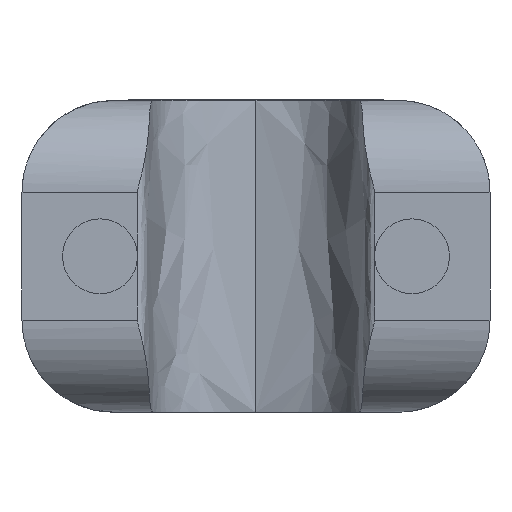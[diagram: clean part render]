
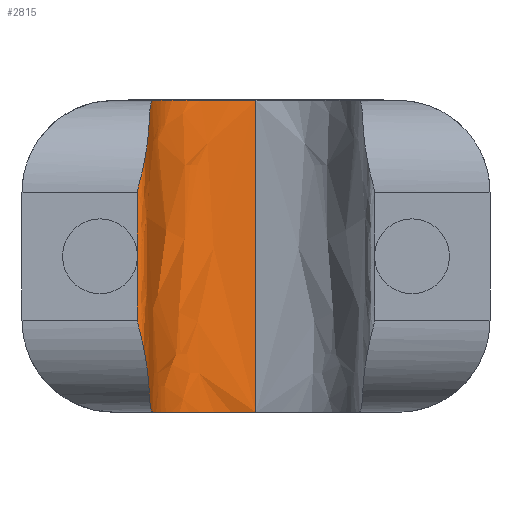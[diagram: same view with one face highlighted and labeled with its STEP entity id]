
A CAD part, front view. The second image highlights one B-rep face of the part: STEP entity #2815.
In plain terms, the highlighted free-form (B-spline) face has degree [3, 1] with [4, 2] control points.
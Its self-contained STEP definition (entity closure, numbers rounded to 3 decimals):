
#59 = CARTESIAN_POINT ( 'NONE',  ( -2.792, 0.093, 0.376 ) ) ;
#108 = B_SPLINE_CURVE_WITH_KNOTS ( 'NONE', 3,
 ( #3342, #2412, #3371, #1829, #3109, #2813, #3151, #1013, #2875, #1941, #3222, #368, #3173, #687 ),
 .UNSPECIFIED., .F., .F.,
 ( 4, 2, 2, 2, 2, 2, 4 ),
 ( 0., 0., 0.001, 0.001, 0.001, 0.001, 0.001 ),
 .UNSPECIFIED. ) ;
#166 = CARTESIAN_POINT ( 'NONE',  ( -1.905, 1.52, 2.54 ) ) ;
#195 = ORIENTED_EDGE ( 'NONE', *, *, #2181, .F. ) ;
#357 = CARTESIAN_POINT ( 'NONE',  ( -2.77, 0.371, 0.096 ) ) ;
#368 = CARTESIAN_POINT ( 'NONE',  ( -2.862, 0.001, 1.839 ) ) ;
#395 = EDGE_CURVE ( 'NONE', #1058, #1155, #108, .T. ) ;
#461 = VERTEX_POINT ( 'NONE', #2243 ) ;
#587 = CARTESIAN_POINT ( 'NONE',  ( -2.518, 1.505, 0. ) ) ;
#674 = B_SPLINE_CURVE_WITH_KNOTS ( 'NONE', 3,
 ( #1524, #587, #3042, #2773 ),
 .UNSPECIFIED., .F., .F.,
 ( 4, 4 ),
 ( 0., 0.506 ),
 .UNSPECIFIED. ) ;
#687 = CARTESIAN_POINT ( 'NONE',  ( -2.87, 0., 1.79 ) ) ;
#732 = LINE ( 'NONE', #2371, #1767 ) ;
#795 = CARTESIAN_POINT ( 'NONE',  ( -2.87, 0., 1.79 ) ) ;
#847 = EDGE_CURVE ( 'NONE', #997, #461, #3849, .T. ) ;
#881 = DIRECTION ( 'NONE',  ( 0., 0., 1. ) ) ;
#969 = CARTESIAN_POINT ( 'NONE',  ( -2.772, 0.287, 0.152 ) ) ;
#982 = CARTESIAN_POINT ( 'NONE',  ( -2.85, 0.006, 0.653 ) ) ;
#997 = VERTEX_POINT ( 'NONE', #3846 ) ;
#1008 = CARTESIAN_POINT ( 'NONE',  ( -3.116, 1.491, 2.54 ) ) ;
#1013 = CARTESIAN_POINT ( 'NONE',  ( -2.816, 0.037, 2.029 ) ) ;
#1035 = ORIENTED_EDGE ( 'NONE', *, *, #3821, .F. ) ;
#1058 = VERTEX_POINT ( 'NONE', #1400 ) ;
#1147 = DIRECTION ( 'NONE',  ( 0., 0., 1. ) ) ;
#1155 = VERTEX_POINT ( 'NONE', #795 ) ;
#1275 = VECTOR ( 'NONE', #1974, 1000. ) ;
#1316 = CARTESIAN_POINT ( 'NONE',  ( -2.756, 0.651, 0. ) ) ;
#1356 = VERTEX_POINT ( 'NONE', #2466 ) ;
#1400 = CARTESIAN_POINT ( 'NONE',  ( -2.742, 0.75, 2.54 ) ) ;
#1503 = CARTESIAN_POINT ( 'NONE',  ( -2.87, 0., 1.27 ) ) ;
#1524 = CARTESIAN_POINT ( 'NONE',  ( -1.905, 1.52, 0. ) ) ;
#1580 = CARTESIAN_POINT ( 'NONE',  ( -2.87, 0., 0. ) ) ;
#1618 = CARTESIAN_POINT ( 'NONE',  ( -1.905, 1.52, 0. ) ) ;
#1637 = CARTESIAN_POINT ( 'NONE',  ( -3.116, 1.491, 0. ) ) ;
#1638 = ORIENTED_EDGE ( 'NONE', *, *, #3160, .F. ) ;
#1699 = B_SPLINE_CURVE_WITH_KNOTS ( 'NONE', 3,
 ( #166, #3615, #3280, #3901 ),
 .UNSPECIFIED., .F., .F.,
 ( 4, 4 ),
 ( 0., 0.506 ),
 .UNSPECIFIED. ) ;
#1767 = VECTOR ( 'NONE', #1147, 1000. ) ;
#1829 = CARTESIAN_POINT ( 'NONE',  ( -2.77, 0.37, 2.444 ) ) ;
#1844 = CARTESIAN_POINT ( 'NONE',  ( -1.905, 1.52, 0. ) ) ;
#1894 = CARTESIAN_POINT ( 'NONE',  ( -2.87, 0., 2.54 ) ) ;
#1941 = CARTESIAN_POINT ( 'NONE',  ( -2.843, 0.009, 1.911 ) ) ;
#1974 = DIRECTION ( 'NONE',  ( 0., 0., 1. ) ) ;
#2063 = VECTOR ( 'NONE', #881, 1000. ) ;
#2135 = CARTESIAN_POINT ( 'NONE',  ( -2.87, 0., 0. ) ) ;
#2181 = EDGE_CURVE ( 'NONE', #3875, #1155, #732, .T. ) ;
#2203 = CARTESIAN_POINT ( 'NONE',  ( -2.599, 0.039, 2.54 ) ) ;
#2218 = CARTESIAN_POINT ( 'NONE',  ( -1.905, 1.52, 0. ) ) ;
#2243 = CARTESIAN_POINT ( 'NONE',  ( -2.742, 0.75, 0. ) ) ;
#2299 = LINE ( 'NONE', #1618, #1275 ) ;
#2317 = ORIENTED_EDGE ( 'NONE', *, *, #847, .T. ) ;
#2371 = CARTESIAN_POINT ( 'NONE',  ( -2.87, 0., 0. ) ) ;
#2412 = CARTESIAN_POINT ( 'NONE',  ( -2.756, 0.651, 2.54 ) ) ;
#2466 = CARTESIAN_POINT ( 'NONE',  ( -1.905, 1.52, 2.54 ) ) ;
#2514 = CARTESIAN_POINT ( 'NONE',  ( -2.742, 0.75, 0. ) ) ;
#2518 = EDGE_LOOP ( 'NONE', ( #2317, #1035, #3892, #3455, #3839, #195, #1638 ) ) ;
#2752 = FACE_OUTER_BOUND ( 'NONE', #2518, .T. ) ;
#2763 = VERTEX_POINT ( 'NONE', #1844 ) ;
#2773 = CARTESIAN_POINT ( 'NONE',  ( -2.742, 0.75, 0. ) ) ;
#2804 = CARTESIAN_POINT ( 'NONE',  ( -2.762, 0.553, 0.02 ) ) ;
#2813 = CARTESIAN_POINT ( 'NONE',  ( -2.783, 0.148, 2.248 ) ) ;
#2815 = ADVANCED_FACE ( 'NONE', ( #2752 ), #3091, .F. ) ;
#2867 = CARTESIAN_POINT ( 'NONE',  ( -2.862, 0.001, 0.701 ) ) ;
#2875 = CARTESIAN_POINT ( 'NONE',  ( -2.826, 0.023, 1.982 ) ) ;
#3042 = CARTESIAN_POINT ( 'NONE',  ( -2.689, 1.126, 0. ) ) ;
#3073 = EDGE_CURVE ( 'NONE', #1356, #1058, #1699, .T. ) ;
#3091 = B_SPLINE_SURFACE_WITH_KNOTS ( 'NONE', 3, 1, ( 
 ( #2218, #3472 ),
 ( #1637, #1008 ),
 ( #3166, #2203 ),
 ( #1580, #1894 ) ),
 .UNSPECIFIED., .F., .F., .F.,
 ( 4, 4 ),
 ( 2, 2 ),
 ( 0., 1. ),
 ( 0., 1. ),
 .UNSPECIFIED. ) ;
#3109 = CARTESIAN_POINT ( 'NONE',  ( -2.772, 0.287, 2.388 ) ) ;
#3143 = CARTESIAN_POINT ( 'NONE',  ( -2.87, 0., 0.75 ) ) ;
#3151 = CARTESIAN_POINT ( 'NONE',  ( -2.792, 0.093, 2.164 ) ) ;
#3160 = EDGE_CURVE ( 'NONE', #997, #3875, #3831, .T. ) ;
#3166 = CARTESIAN_POINT ( 'NONE',  ( -2.599, 0.039, 0. ) ) ;
#3173 = CARTESIAN_POINT ( 'NONE',  ( -2.87, 0., 1.816 ) ) ;
#3179 = CARTESIAN_POINT ( 'NONE',  ( -2.843, 0.009, 0.629 ) ) ;
#3222 = CARTESIAN_POINT ( 'NONE',  ( -2.85, 0.006, 1.887 ) ) ;
#3280 = CARTESIAN_POINT ( 'NONE',  ( -2.689, 1.126, 2.54 ) ) ;
#3342 = CARTESIAN_POINT ( 'NONE',  ( -2.742, 0.75, 2.54 ) ) ;
#3371 = CARTESIAN_POINT ( 'NONE',  ( -2.763, 0.553, 2.52 ) ) ;
#3451 = CARTESIAN_POINT ( 'NONE',  ( -2.816, 0.037, 0.511 ) ) ;
#3455 = ORIENTED_EDGE ( 'NONE', *, *, #3073, .T. ) ;
#3463 = CARTESIAN_POINT ( 'NONE',  ( -2.826, 0.023, 0.558 ) ) ;
#3472 = CARTESIAN_POINT ( 'NONE',  ( -1.905, 1.52, 2.54 ) ) ;
#3478 = CARTESIAN_POINT ( 'NONE',  ( -2.87, 0., 0.724 ) ) ;
#3487 = EDGE_CURVE ( 'NONE', #2763, #1356, #2299, .T. ) ;
#3615 = CARTESIAN_POINT ( 'NONE',  ( -2.518, 1.505, 2.54 ) ) ;
#3804 = CARTESIAN_POINT ( 'NONE',  ( -2.783, 0.148, 0.292 ) ) ;
#3821 = EDGE_CURVE ( 'NONE', #2763, #461, #674, .T. ) ;
#3831 = LINE ( 'NONE', #2135, #2063 ) ;
#3839 = ORIENTED_EDGE ( 'NONE', *, *, #395, .T. ) ;
#3846 = CARTESIAN_POINT ( 'NONE',  ( -2.87, 0., 0.75 ) ) ;
#3849 = B_SPLINE_CURVE_WITH_KNOTS ( 'NONE', 3,
 ( #3143, #3478, #2867, #982, #3179, #3463, #3451, #59, #3804, #969, #357, #2804, #1316, #2514 ),
 .UNSPECIFIED., .F., .F.,
 ( 4, 2, 2, 2, 2, 2, 4 ),
 ( 0., 0., 0., 0., 0.001, 0.001, 0.001 ),
 .UNSPECIFIED. ) ;
#3875 = VERTEX_POINT ( 'NONE', #1503 ) ;
#3892 = ORIENTED_EDGE ( 'NONE', *, *, #3487, .T. ) ;
#3901 = CARTESIAN_POINT ( 'NONE',  ( -2.742, 0.75, 2.54 ) ) ;
